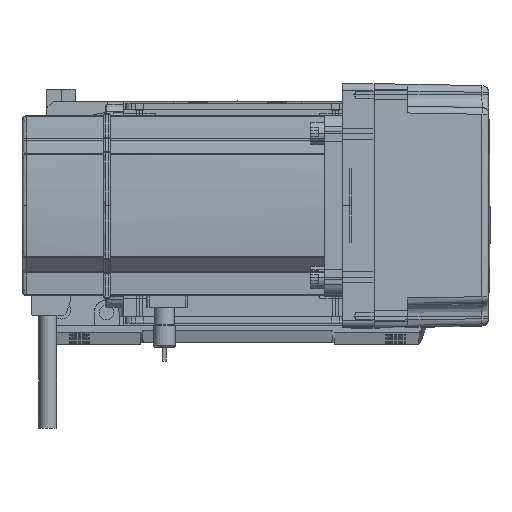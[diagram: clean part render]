
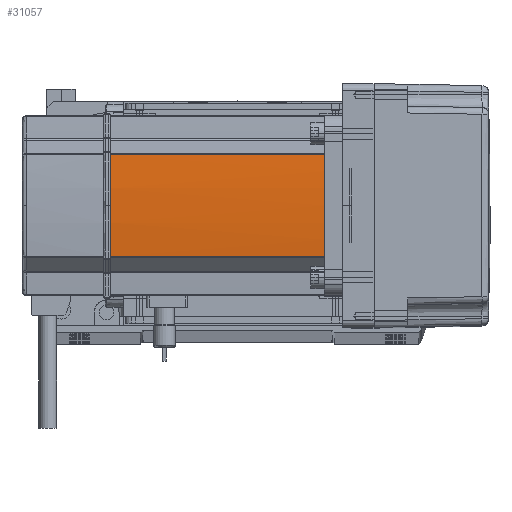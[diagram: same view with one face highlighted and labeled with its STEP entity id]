
A CAD part, top view. The second image highlights one B-rep face of the part: STEP entity #31057.
In plain terms, the highlighted cylindrical face has radius 270 mm (diameter 540 mm), a partial arc.
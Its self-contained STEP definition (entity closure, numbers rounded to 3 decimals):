
#403 = ORIENTED_EDGE ( 'NONE', *, *, #40548, .F. ) ;
#1170 = VECTOR ( 'NONE', #35335, 1000. ) ;
#2183 = DIRECTION ( 'NONE',  ( 1., 0., 0. ) ) ;
#2586 = CARTESIAN_POINT ( 'NONE',  ( -39.042, 22.724, 39. ) ) ;
#2947 = CIRCLE ( 'NONE', #36206, 270. ) ;
#5094 = ORIENTED_EDGE ( 'NONE', *, *, #36604, .T. ) ;
#7726 = DIRECTION ( 'NONE',  ( 0., 0., -1. ) ) ;
#7864 = DIRECTION ( 'NONE',  ( 0., 0., 1. ) ) ;
#8905 = LINE ( 'NONE', #43174, #62946 ) ;
#9865 = DIRECTION ( 'NONE',  ( 0., 0., -1. ) ) ;
#10087 = DIRECTION ( 'NONE',  ( 1., 0., 0. ) ) ;
#10483 = CARTESIAN_POINT ( 'NONE',  ( 230., 0., 0. ) ) ;
#11668 = ORIENTED_EDGE ( 'NONE', *, *, #30053, .T. ) ;
#12771 = CARTESIAN_POINT ( 'NONE',  ( 230., 0., 39. ) ) ;
#15158 = VERTEX_POINT ( 'NONE', #45497 ) ;
#19832 = FACE_OUTER_BOUND ( 'NONE', #45707, .T. ) ;
#20714 = DIRECTION ( 'NONE',  ( 0., 0., 1. ) ) ;
#21106 = LINE ( 'NONE', #35561, #1170 ) ;
#22771 = EDGE_CURVE ( 'NONE', #57534, #58696, #29487, .T. ) ;
#23742 = VERTEX_POINT ( 'NONE', #61046 ) ;
#25108 = AXIS2_PLACEMENT_3D ( 'NONE', #10483, #20714, #62025 ) ;
#27920 = DIRECTION ( 'NONE',  ( 1., 0., 0. ) ) ;
#29487 = CIRCLE ( 'NONE', #54474, 270. ) ;
#30053 = EDGE_CURVE ( 'NONE', #58696, #15158, #39768, .T. ) ;
#31057 = ADVANCED_FACE ( 'NONE', ( #19832 ), #53967, .T. ) ;
#32450 = CARTESIAN_POINT ( 'NONE',  ( 230., 0., 134. ) ) ;
#32823 = ORIENTED_EDGE ( 'NONE', *, *, #41724, .T. ) ;
#33110 = DIRECTION ( 'NONE',  ( 0., 0., -1. ) ) ;
#35335 = DIRECTION ( 'NONE',  ( 0., 0., -1. ) ) ;
#35561 = CARTESIAN_POINT ( 'NONE',  ( -39.042, 22.724, 0. ) ) ;
#35845 = CARTESIAN_POINT ( 'NONE',  ( 230., 0., 134. ) ) ;
#36206 = AXIS2_PLACEMENT_3D ( 'NONE', #12771, #7726, #27920 ) ;
#36604 = EDGE_CURVE ( 'NONE', #23742, #57534, #8905, .T. ) ;
#39768 = CIRCLE ( 'NONE', #62959, 270. ) ;
#40548 = EDGE_CURVE ( 'NONE', #23742, #49786, #2947, .T. ) ;
#41724 = EDGE_CURVE ( 'NONE', #15158, #49786, #21106, .T. ) ;
#43174 = CARTESIAN_POINT ( 'NONE',  ( -39.042, -22.724, 0. ) ) ;
#45497 = CARTESIAN_POINT ( 'NONE',  ( -39.042, 22.724, 134. ) ) ;
#45707 = EDGE_LOOP ( 'NONE', ( #52914, #11668, #32823, #403, #5094 ) ) ;
#49786 = VERTEX_POINT ( 'NONE', #2586 ) ;
#52914 = ORIENTED_EDGE ( 'NONE', *, *, #22771, .T. ) ;
#53967 = CYLINDRICAL_SURFACE ( 'NONE', #25108, 270. ) ;
#54474 = AXIS2_PLACEMENT_3D ( 'NONE', #35845, #9865, #10087 ) ;
#57534 = VERTEX_POINT ( 'NONE', #60639 ) ;
#57761 = CARTESIAN_POINT ( 'NONE',  ( -40., 0., 134. ) ) ;
#58696 = VERTEX_POINT ( 'NONE', #57761 ) ;
#60639 = CARTESIAN_POINT ( 'NONE',  ( -39.042, -22.724, 134. ) ) ;
#61046 = CARTESIAN_POINT ( 'NONE',  ( -39.042, -22.724, 39. ) ) ;
#62025 = DIRECTION ( 'NONE',  ( 1., 0., 0. ) ) ;
#62946 = VECTOR ( 'NONE', #7864, 1000. ) ;
#62959 = AXIS2_PLACEMENT_3D ( 'NONE', #32450, #33110, #2183 ) ;
